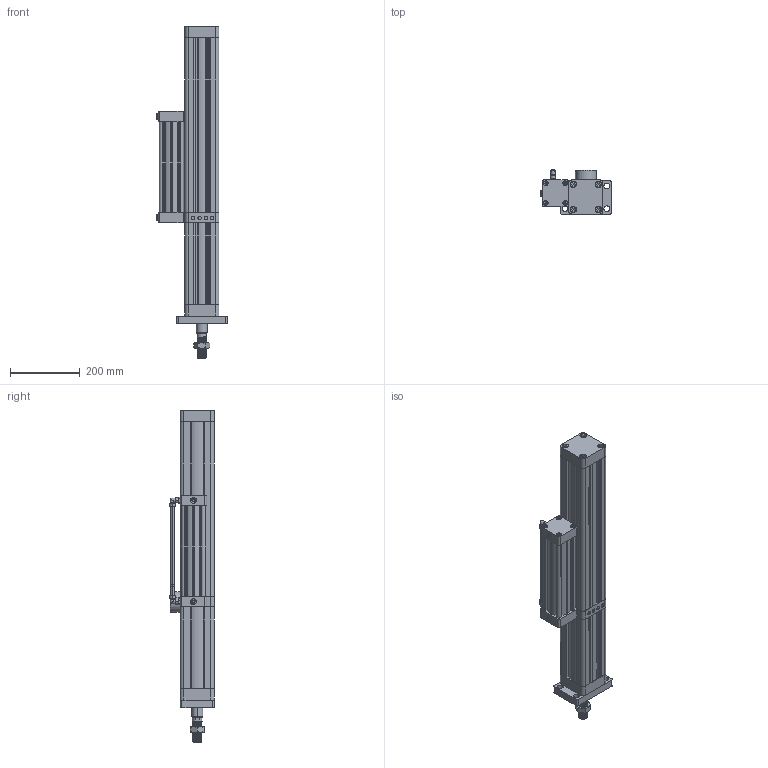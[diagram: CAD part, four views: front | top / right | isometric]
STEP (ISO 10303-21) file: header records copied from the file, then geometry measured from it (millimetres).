
FILE_DESCRIPTION(('CATIA V5 STEP Exchange'),'2;1');
FILE_NAME('D:\7-PHP\PHP CYLINDER\cad\master file\80\Stroke\PHP80.150.20\ASS\PHP-80-150-20.stp','2020-09-22T07:59:13+00:00',('none'),('none'),'CATIA Version 5-6 Release 2016','CATIA V5 STEP AP203','none');
FILE_SCHEMA(('CONFIG_CONTROL_DESIGN'));
Products named in the file (2): PHP-80; prssure
Assembly tree (39 placements, depth 3):
  PHP-80
    #57
    #689
    #996
    #4193
    #4840
    #8037
    #8613
    #9204
    #12710
    prssure
      #13507
      #13819
      #13923
      #132929
      #249919
      #249942
      #250304
      #250408
      #250583
      #250953
      #251846
    #252752
    #252856
    #253734
    #254612
    #255490
    #256368
    #264992
    #265906
    #266820
    #267734
    #268648
    #269452  x3
    #269969  x2
    #270151  x2
Bounding box: 201.5 x 128.25 x 951 mm (x, y, z)
Volume: 3644703.8 mm3; surface area: 1207167.7 mm2
Topology: 85 solids, 85 shells, 8368 faces, 24261 edges, 16129 vertices
Faces by surface type: plane 7489, cylinder 662, bspline 93, cone 78, torus 46
Entity records: 270981 total; most frequent: CARTESIAN_POINT 54062, ORIENTED_EDGE 48208, DIRECTION 39239, EDGE_CURVE 24104, VECTOR 22313, LINE 22313, VERTEX_POINT 16028, AXIS2_PLACEMENT_3D 9127
